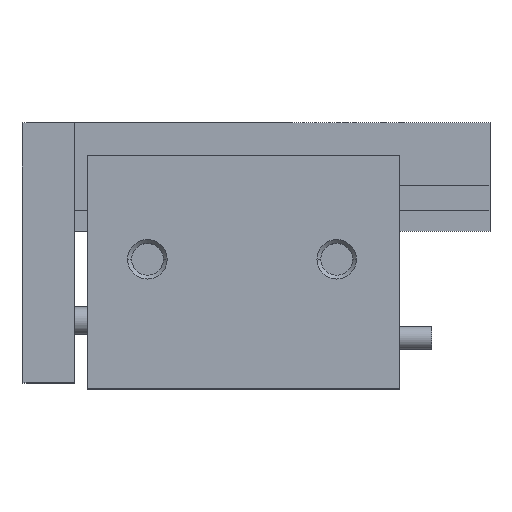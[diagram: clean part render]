
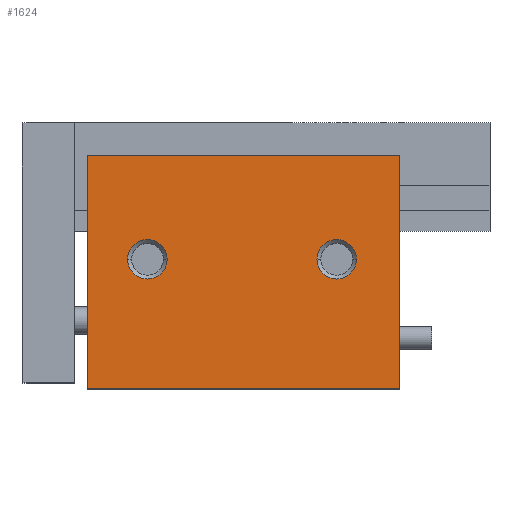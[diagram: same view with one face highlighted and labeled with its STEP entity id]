
A CAD part, top view. The second image highlights one B-rep face of the part: STEP entity #1624.
In plain terms, the highlighted planar face has unit normal (0, 0, 1) as drawn and (0, 0, -1) by its records, which use the part's own axes.
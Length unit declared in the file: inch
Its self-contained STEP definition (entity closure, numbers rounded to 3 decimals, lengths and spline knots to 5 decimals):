
#71 = CARTESIAN_POINT ( 'NONE',  ( 1.5, -0.5615, -0.43 ) ) ;
#130 = CIRCLE ( 'NONE', #2747, 0.095 ) ;
#259 = EDGE_LOOP ( 'NONE', ( #910, #6796 ) ) ;
#500 = VECTOR ( 'NONE', #4592, 39.37008 ) ;
#674 = VERTEX_POINT ( 'NONE', #7109 ) ;
#887 = CIRCLE ( 'NONE', #1308, 0.095 ) ;
#910 = ORIENTED_EDGE ( 'NONE', *, *, #5844, .T. ) ;
#925 = CARTESIAN_POINT ( 'NONE',  ( 1.5, 0.5615, -0.43 ) ) ;
#941 = ORIENTED_EDGE ( 'NONE', *, *, #1214, .T. ) ;
#967 = DIRECTION ( 'NONE',  ( 0., 0., 1. ) ) ;
#1167 = VECTOR ( 'NONE', #6538, 39.37008 ) ;
#1190 = CARTESIAN_POINT ( 'NONE',  ( 0.395, 0.0615, -0.43 ) ) ;
#1214 = EDGE_CURVE ( 'NONE', #5683, #4282, #7791, .T. ) ;
#1308 = AXIS2_PLACEMENT_3D ( 'NONE', #3503, #8065, #4166 ) ;
#1357 = AXIS2_PLACEMENT_3D ( 'NONE', #7065, #3152, #7720 ) ;
#1624 = ADVANCED_FACE ( 'NONE', ( #7632, #2416, #4172 ), #4876, .F. ) ;
#1714 = ORIENTED_EDGE ( 'NONE', *, *, #8059, .F. ) ;
#1968 = CARTESIAN_POINT ( 'NONE',  ( 0., -0.5615, -0.43 ) ) ;
#2144 = EDGE_CURVE ( 'NONE', #6939, #7951, #887, .T. ) ;
#2154 = VECTOR ( 'NONE', #5508, 39.37008 ) ;
#2326 = ORIENTED_EDGE ( 'NONE', *, *, #7542, .T. ) ;
#2416 = FACE_OUTER_BOUND ( 'NONE', #3955, .T. ) ;
#2632 = CARTESIAN_POINT ( 'NONE',  ( 1.5, -0.5615, -0.43 ) ) ;
#2658 = DIRECTION ( 'NONE',  ( 0., 0., 1. ) ) ;
#2747 = AXIS2_PLACEMENT_3D ( 'NONE', #6693, #2770, #7348 ) ;
#2770 = DIRECTION ( 'NONE',  ( 0., 0., 1. ) ) ;
#2903 = LINE ( 'NONE', #1968, #1167 ) ;
#2941 = AXIS2_PLACEMENT_3D ( 'NONE', #3577, #967, #5520 ) ;
#3152 = DIRECTION ( 'NONE',  ( 0., 0., 1. ) ) ;
#3503 = CARTESIAN_POINT ( 'NONE',  ( 1.21, 0.0615, -0.43 ) ) ;
#3526 = CARTESIAN_POINT ( 'NONE',  ( 0., -0.5615, -0.43 ) ) ;
#3577 = CARTESIAN_POINT ( 'NONE',  ( 1.5, -0.5615, -0.43 ) ) ;
#3740 = CARTESIAN_POINT ( 'NONE',  ( 1.5, -0.5615, -0.43 ) ) ;
#3955 = EDGE_LOOP ( 'NONE', ( #5523, #1714, #8405, #2326 ) ) ;
#4068 = VERTEX_POINT ( 'NONE', #4496 ) ;
#4123 = VECTOR ( 'NONE', #7641, 39.37008 ) ;
#4166 = DIRECTION ( 'NONE',  ( 1., 0., 0. ) ) ;
#4172 = FACE_BOUND ( 'NONE', #259, .T. ) ;
#4282 = VERTEX_POINT ( 'NONE', #4705 ) ;
#4496 = CARTESIAN_POINT ( 'NONE',  ( 0., 0.5615, -0.43 ) ) ;
#4592 = DIRECTION ( 'NONE',  ( 0., 1., 0. ) ) ;
#4676 = EDGE_CURVE ( 'NONE', #7119, #674, #5277, .T. ) ;
#4705 = CARTESIAN_POINT ( 'NONE',  ( 0.205, 0.0615, -0.43 ) ) ;
#4876 = PLANE ( 'NONE',  #2941 ) ;
#5071 = ORIENTED_EDGE ( 'NONE', *, *, #7919, .T. ) ;
#5074 = EDGE_LOOP ( 'NONE', ( #5071, #941 ) ) ;
#5277 = LINE ( 'NONE', #2632, #500 ) ;
#5391 = CARTESIAN_POINT ( 'NONE',  ( 1.115, 0.0615, -0.43 ) ) ;
#5508 = DIRECTION ( 'NONE',  ( -1., 0., 0. ) ) ;
#5520 = DIRECTION ( 'NONE',  ( 1., 0., 0. ) ) ;
#5523 = ORIENTED_EDGE ( 'NONE', *, *, #6384, .T. ) ;
#5629 = LINE ( 'NONE', #925, #2154 ) ;
#5637 = LINE ( 'NONE', #3740, #4123 ) ;
#5683 = VERTEX_POINT ( 'NONE', #1190 ) ;
#5844 = EDGE_CURVE ( 'NONE', #7951, #6939, #8426, .T. ) ;
#6384 = EDGE_CURVE ( 'NONE', #6717, #4068, #2903, .T. ) ;
#6538 = DIRECTION ( 'NONE',  ( 0., 1., 0. ) ) ;
#6577 = CARTESIAN_POINT ( 'NONE',  ( 1.21, 0.0615, -0.43 ) ) ;
#6693 = CARTESIAN_POINT ( 'NONE',  ( 0.3, 0.0615, -0.43 ) ) ;
#6717 = VERTEX_POINT ( 'NONE', #3526 ) ;
#6796 = ORIENTED_EDGE ( 'NONE', *, *, #2144, .T. ) ;
#6939 = VERTEX_POINT ( 'NONE', #7053 ) ;
#7053 = CARTESIAN_POINT ( 'NONE',  ( 1.305, 0.0615, -0.43 ) ) ;
#7065 = CARTESIAN_POINT ( 'NONE',  ( 0.3, 0.0615, -0.43 ) ) ;
#7109 = CARTESIAN_POINT ( 'NONE',  ( 1.5, 0.5615, -0.43 ) ) ;
#7119 = VERTEX_POINT ( 'NONE', #71 ) ;
#7166 = AXIS2_PLACEMENT_3D ( 'NONE', #6577, #2658, #7244 ) ;
#7244 = DIRECTION ( 'NONE',  ( 1., 0., 0. ) ) ;
#7348 = DIRECTION ( 'NONE',  ( 1., 0., 0. ) ) ;
#7542 = EDGE_CURVE ( 'NONE', #7119, #6717, #5637, .T. ) ;
#7632 = FACE_BOUND ( 'NONE', #5074, .T. ) ;
#7641 = DIRECTION ( 'NONE',  ( -1., 0., 0. ) ) ;
#7720 = DIRECTION ( 'NONE',  ( 1., 0., 0. ) ) ;
#7791 = CIRCLE ( 'NONE', #1357, 0.095 ) ;
#7919 = EDGE_CURVE ( 'NONE', #4282, #5683, #130, .T. ) ;
#7951 = VERTEX_POINT ( 'NONE', #5391 ) ;
#8059 = EDGE_CURVE ( 'NONE', #674, #4068, #5629, .T. ) ;
#8065 = DIRECTION ( 'NONE',  ( 0., 0., 1. ) ) ;
#8405 = ORIENTED_EDGE ( 'NONE', *, *, #4676, .F. ) ;
#8426 = CIRCLE ( 'NONE', #7166, 0.095 ) ;
